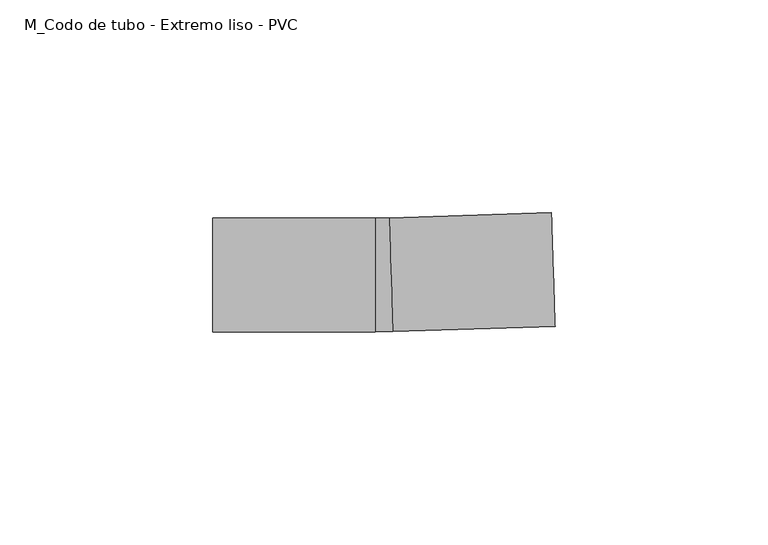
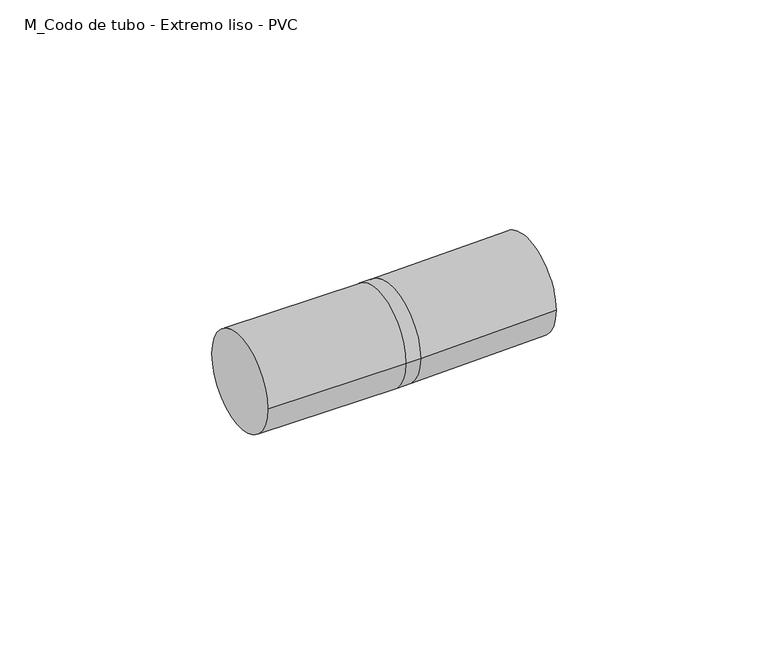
"""IFC4 building model written with IfcOpenShell, lengths in millimetres: cable carrier fitting geometry, M_Codo de tubo - Extremo liso - PVC : CODO ILUMINACION."""

import ifcopenshell
import ifcopenshell.guid

model = None  # the IFC model being written
_history = None  # IfcOwnerHistory: only IFC2X3 demands one
_inside = {}  # id of a spatial element -> (the spatial element, [elements in it])
_under = {}  # id of a project, library or spatial element -> (it, [spatial elements below it])
_declared = {}  # id of a project -> (the project, [libraries it declares])
_typed = {}  # id of a type object -> (the type object, [elements of that type])
_made_of = {}  # id of a material, layer set ... -> (it, [elements and type objects made of it])


def new_model(schema):
    """Start an empty IFC model of exactly this schema.

    Asked for "IFC4X3", IfcOpenShell would pick the latest addendum, in which some entities
    have other attributes; the version numbers below select the first issue.
    IFC2X3 requires an IfcOwnerHistory on every rooted entity: one is made here for all.
    """
    global model, _history
    if schema == "IFC4X3":
        model = ifcopenshell.file(schema_version=(4, 3, 0, 0))
    else:
        model = ifcopenshell.file(schema=schema)
    _inside.clear()
    _under.clear()
    _declared.clear()
    _typed.clear()
    _made_of.clear()
    _history = None
    if model.schema == "IFC2X3":
        org = make("IfcOrganization", Name="unknown")
        user = make(
            "IfcPersonAndOrganization",
            ThePerson=make("IfcPerson", FamilyName="unknown"),
            TheOrganization=org,
        )
        app = make(
            "IfcApplication",
            ApplicationDeveloper=org,
            Version="unknown",
            ApplicationFullName="unknown",
            ApplicationIdentifier="unknown",
        )
        _history = make(
            "IfcOwnerHistory",
            OwningUser=user,
            OwningApplication=app,
            ChangeAction="ADDED",
            CreationDate=0,
        )
    return model


def make(cls, **values):
    """One entity of the class cls with the attributes given. An attribute that is None is left unset."""
    return model.create_entity(
        cls, **{name: value for name, value in values.items() if value is not None}
    )


def rooted(cls, **values):
    """An entity with a GlobalId (a new one), such as an element, a storey or a relation."""
    return make(cls, GlobalId=ifcopenshell.guid.new(), OwnerHistory=_history, **values)


def si_unit(unit_type, name, prefix=None):
    """IfcSIUnit, for example si_unit("LENGTHUNIT", "METRE", prefix="MILLI")."""
    return make("IfcSIUnit", UnitType=unit_type, Prefix=prefix, Name=name)


def assignment(units):
    """IfcUnitAssignment: the units of a project."""
    return None if units is None else make("IfcUnitAssignment", Units=units)


def point(xyz):
    """IfcCartesianPoint."""
    return None if xyz is None else make("IfcCartesianPoint", Coordinates=xyz)


def direction(xyz):
    """IfcDirection."""
    return None if xyz is None else make("IfcDirection", DirectionRatios=xyz)


def frame(location, z_axis=None, x_axis=None):
    """IfcAxis2Placement3D, a coordinate frame: its origin and axes. An axis left out is left unset."""
    return make(
        "IfcAxis2Placement3D",
        Location=point(location),
        Axis=direction(z_axis),
        RefDirection=direction(x_axis),
    )


def origin():
    """The frame at (0, 0, 0) with its axes left unset."""
    return frame((0.0, 0.0, 0.0))


def place(relative_to, where):
    """IfcLocalPlacement: puts the frame where relative to a parent placement (None: the world)."""
    return make(
        "IfcLocalPlacement", PlacementRelTo=relative_to, RelativePlacement=where
    )


def context(
    kind, dimensions, precision=None, world=None, true_north=None, identifier=None
):
    """IfcGeometricRepresentationContext, for example the 3D "Model" context."""
    return make(
        "IfcGeometricRepresentationContext",
        ContextIdentifier=identifier,
        ContextType=kind,
        CoordinateSpaceDimension=dimensions,
        Precision=precision,
        WorldCoordinateSystem=world,
        TrueNorth=true_north,
    )


def project(units=None, contexts=None):
    """IfcProject with its units and contexts."""
    return rooted(
        "IfcProject",
        Name="project",
        RepresentationContexts=contexts,
        UnitsInContext=assignment(units),
    )


def spatial(cls, under=None, at=None, **own):
    """A site, building, storey or space (cls), placed at a placement, below another one or the project."""
    s = rooted(cls, ObjectPlacement=at, **own)
    if under is not None:
        _under.setdefault(under.id(), (under, []))[1].append(s)
    return s


def circle_curve(where, radius):
    """IfcCircle in the frame where."""
    return make("IfcCircle", Position=where, Radius=radius)


def ellipse_curve(where, semi_axis1, semi_axis2):
    """IfcEllipse in the frame where."""
    return make(
        "IfcEllipse", Position=where, SemiAxis1=semi_axis1, SemiAxis2=semi_axis2
    )


def trimmed(basis, trim1, trim2, sense, master):
    """IfcTrimmedCurve: the piece of a basis curve between two trims."""
    return make(
        "IfcTrimmedCurve",
        BasisCurve=basis,
        Trim1=trim1,
        Trim2=trim2,
        SenseAgreement=sense,
        MasterRepresentation=master,
    )


def shape(context_of_items, identifier, shape_type, items):
    """IfcShapeRepresentation: the items that make up one representation, for example the "Body"."""
    return make(
        "IfcShapeRepresentation",
        ContextOfItems=context_of_items,
        RepresentationIdentifier=identifier,
        RepresentationType=shape_type,
        Items=items,
    )


def source(mapping_origin, context_of_items, identifier, shape_type, items):
    """IfcRepresentationMap: a shape defined once, which mapped items show again and again."""
    return make(
        "IfcRepresentationMap",
        MappingOrigin=mapping_origin,
        MappedRepresentation=shape(context_of_items, identifier, shape_type, items),
    )


def transform(
    local_origin,
    x_axis=None,
    y_axis=None,
    z_axis=None,
    scale=None,
    scale2=None,
    scale3=None,
    uniform=True,
):
    """IfcCartesianTransformationOperator3D, or its non-uniform kind. x_axis, y_axis, z_axis: its Axis1, 2, 3."""
    if uniform:
        return make(
            "IfcCartesianTransformationOperator3D",
            Axis1=direction(x_axis),
            Axis2=direction(y_axis),
            LocalOrigin=point(local_origin),
            Scale=scale,
            Axis3=direction(z_axis),
        )
    return make(
        "IfcCartesianTransformationOperator3DnonUniform",
        Axis1=direction(x_axis),
        Axis2=direction(y_axis),
        LocalOrigin=point(local_origin),
        Scale=scale,
        Axis3=direction(z_axis),
        Scale2=scale2,
        Scale3=scale3,
    )


def mapped(mapping_source, mapping_target):
    """IfcMappedItem: shows the shape of a source again, moved by a transform."""
    return make(
        "IfcMappedItem", MappingSource=mapping_source, MappingTarget=mapping_target
    )


def made_of(thing, what):
    """Note that an element or type object is made of a material, layer set ...; save() writes the relation."""
    if what is not None:
        _made_of.setdefault(what.id(), (what, []))[1].append(thing)
    return thing


def element(
    cls,
    number,
    at=None,
    inside=None,
    cuts=None,
    type_object=None,
    material=None,
    context=None,
    identifier="Body",
    shape_type=None,
    held_by="IfcProductDefinitionShape",
    body=None,
    shapes=None,
    **own,
):
    """One element of the class cls, such as IfcWall. Its Tag is "e" and its number.

    at: its placement. inside: the storey or other place that contains it. cuts: it is an
    opening in that element (IfcRelVoidsElement). A single representation is given by context,
    identifier, shape_type and body (its items); several are given by shapes. held_by: the class
    of the entity that holds the representations. save() writes the other relations.
    """
    e = rooted(cls, Tag="e%d" % number, ObjectPlacement=at, **own)
    if body is not None:
        shapes = [shape(context, identifier, shape_type, body)]
    if shapes is not None:
        e.Representation = make(held_by, Representations=shapes)
    if inside is not None:
        _inside.setdefault(inside.id(), (inside, []))[1].append(e)
    if cuts is not None:
        rooted(
            "IfcRelVoidsElement", RelatingBuildingElement=cuts, RelatedOpeningElement=e
        )
    if type_object is not None:
        _typed.setdefault(type_object.id(), (type_object, []))[1].append(e)
    return made_of(e, material)


def aggregate(whole, parts):
    """IfcRelAggregates: a whole, such as a stair, and the parts it consists of."""
    return rooted("IfcRelAggregates", RelatingObject=whole, RelatedObjects=parts)


def save(model, path):
    """Write the relations noted so far, then the file.

    IfcRelAggregates (storeys below a building ...), IfcRelContainedInSpatialStructure (elements
    in a storey), IfcRelDefinesByType, IfcRelAssociatesMaterial and IfcRelDeclares: one each for
    every whole, place, type object, material and project.
    """
    for whole, parts in _under.values():
        aggregate(whole, parts)
    for where, things in _inside.values():
        rooted(
            "IfcRelContainedInSpatialStructure",
            RelatedElements=things,
            RelatingStructure=where,
        )
    for kind, things in _typed.values():
        rooted("IfcRelDefinesByType", RelatedObjects=things, RelatingType=kind)
    for what, things in _made_of.values():
        rooted("IfcRelAssociatesMaterial", RelatedObjects=things, RelatingMaterial=what)
    for by, libraries in _declared.values():
        rooted("IfcRelDeclares", RelatingContext=by, RelatedDefinitions=libraries)
    model.write(path)


def plane_surface(at):
    """IfcPlane: the flat surface through the origin of the frame at, square to its z axis."""
    return make("IfcPlane", Position=at)


def cylinder_surface(at, radius):
    """IfcCylindricalSurface: all points at the distance radius from the z axis of the frame at."""
    return make("IfcCylindricalSurface", Position=at, Radius=radius)


def revolved_surface(curve, axis_point, axis_direction):
    """IfcSurfaceOfRevolution: the curve turned about the line through axis_point along axis_direction."""
    return make(
        "IfcSurfaceOfRevolution",
        SweptCurve=make("IfcArbitraryOpenProfileDef", ProfileType="CURVE", Curve=curve),
        AxisPosition=make("IfcAxis1Placement", Location=point(axis_point), Axis=direction(axis_direction)),
    )


def advanced_brep(points, edges, surfaces, faces):
    """IfcAdvancedBrep: a solid bounded by faces that lie on surfaces and meet in shared edges.

    An edge is (start, end): straight between two places in points (the first is 0);
    or (start, end, curve); or (start, end, curve, False) where it runs against its curve.
    A face is (place in surfaces, loops), or (place, loops, False) where it looks against
    its surface's normal. A loop lists edges by number (the first is 1), with a minus sign
    where the edge is run from its end to its start. The first loop is the outer one.
    """
    corners = [point(p) for p in points]
    vertices = [make("IfcVertexPoint", VertexGeometry=c) for c in corners]
    made = []
    for start, end, *more in edges:
        made.append(
            make(
                "IfcEdgeCurve",
                EdgeStart=vertices[start],
                EdgeEnd=vertices[end],
                EdgeGeometry=more[0] if more else make("IfcPolyline", Points=[corners[start], corners[end]]),
                SameSense=more[1] if len(more) > 1 else True,
            )
        )
    hull = []
    for where, loops, *sense in faces:
        bounds = []
        for j, loop in enumerate(loops):
            ring = [make("IfcOrientedEdge", EdgeElement=made[abs(k) - 1], Orientation=k > 0) for k in loop]
            bounds.append(
                make(
                    "IfcFaceOuterBound" if j == 0 else "IfcFaceBound",
                    Bound=make("IfcEdgeLoop", EdgeList=ring),
                    Orientation=True,
                )
            )
        hull.append(make("IfcAdvancedFace", Bounds=bounds, FaceSurface=surfaces[where], SameSense=sense[0] if sense else True))
    return make("IfcAdvancedBrep", Outer=make("IfcClosedShell", CfsFaces=hull))


def m_codo_de_tubo_extremo_liso_pvc_1dd05dc2(model_context):
    return source(origin(), model_context, "Body", "AdvancedBrep", [
        advanced_brep(
        [(-39.947322, -13.335, 0.0), (-39.947322, 13.335, 0.0), (-1.847322, -13.335, 0.0), (-1.847322, 13.335, 0.0), (1.4154279, 13.3877327, 0.0), (2.2772864, -13.2683379, 0.0), (40.3573872, -12.0371115, 0.0), (39.4955288, 14.6189591, 0.0)],
        [
            (0, 1, circle_curve(frame((-39.947322, 0.0, 0.0), z_axis=(-1.0, 0.0, 0.0), x_axis=(0.0, 1.0, 0.0)), 13.335)),
            (1, 0, circle_curve(frame((-39.947322, 0.0, 0.0), z_axis=(-1.0, 0.0, 0.0), x_axis=(0.0, 1.0, 0.0)), 13.335)),
            (0, 2),
            (2, 3, circle_curve(frame((-1.847322, 0.0, 0.0), z_axis=(-1.0, 0.0, 0.0), x_axis=(0.0, 1.0, 0.0)), 13.335)),
            (3, 1),
            (3, 2, circle_curve(frame((-1.847322, 0.0, 0.0), z_axis=(-1.0, 0.0, 0.0), x_axis=(0.0, 1.0, 0.0)), 13.335)),
            (4, 3, circle_curve(frame((-1.847322, 114.3, 0.0), z_axis=(0.0, 0.0, -1.0), x_axis=(0.0, -1.0, 0.0)), 100.965)),
            (2, 5, circle_curve(frame((-1.847322, 114.3, 0.0), z_axis=(0.0, 0.0, 1.0), x_axis=(0.0, -1.0, 0.0)), 127.635)),
            (5, 4, circle_curve(frame((1.8463571, 0.0596974, 0.0), z_axis=(-0.9994777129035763, -0.03231565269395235, 0.0), x_axis=(-0.03231565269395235, 0.9994777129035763, 0.0)), 13.335)),
            (4, 5, circle_curve(frame((1.8463571, 0.0596974, 0.0), z_axis=(-0.9994777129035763, -0.03231565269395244, 0.0), x_axis=(-0.03231565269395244, 0.9994777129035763, 0.0)), 13.335)),
            (6, 7, circle_curve(frame((39.926458, 1.2909238, 0.0), z_axis=(0.9994777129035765, 0.03231565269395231, 0.0), x_axis=(-0.03231565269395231, 0.9994777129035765, 0.0)), 13.335)),
            (7, 6, circle_curve(frame((39.926458, 1.2909238, 0.0), z_axis=(0.9994777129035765, 0.03231565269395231, 0.0), x_axis=(-0.03231565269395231, 0.9994777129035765, 0.0)), 13.335)),
            (5, 6),
            (7, 4),
        ],
        [
            plane_surface(frame((-39.947322, 0.0, 0.0), z_axis=(-1.0, 0.0, 0.0), x_axis=(0.0, 0.0, 1.0))),
            cylinder_surface(frame((-39.947322, 0.0, 0.0), z_axis=(-1.0, 0.0, 0.0), x_axis=(0.0, 1.0, 0.0)), 13.335),
            revolved_surface(trimmed(ellipse_curve(frame((-1.847322, 0.0, 0.0), z_axis=(-1.0, 0.0, 0.0), x_axis=(0.0, 1.0, 0.0)), 13.335, 13.335), [point((-1.847322, -13.335, 0.0))], [point((-1.847322, 13.335, 0.0))], True, "CARTESIAN"), (-1.847322, 114.3, 0.0), (0.0, 0.0, 1.0)),
            revolved_surface(trimmed(ellipse_curve(frame((-1.847322, 0.0, 0.0), z_axis=(-1.0, 0.0, 0.0), x_axis=(0.0, 1.0, 0.0)), 13.335, 13.335), [point((-1.847322, 13.335, 0.0))], [point((-1.847322, -13.335, 0.0))], True, "CARTESIAN"), (-1.847322, 114.3, 0.0), (0.0, 0.0, 1.0)),
            plane_surface(frame((39.926458, 1.2909238, 0.0), z_axis=(0.9994777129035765, 0.032315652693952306, 0.0), x_axis=(0.0, 0.0, 1.0))),
            cylinder_surface(frame((1.8463571, 0.0596974, 0.0), z_axis=(-0.9994777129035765, -0.03231565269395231, 0.0), x_axis=(-0.03231565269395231, 0.9994777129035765, 0.0)), 13.335),
        ],
        [
            (0, [[1, 2]]),
            (1, [[-1, 3, 4, 5]]),
            (1, [[-2, -5, 6, -3]]),
            (2, [[7, -4, 8, 9]]),
            (3, [[-8, -6, -7, 10]]),
            (4, [[11, 12]]),
            (5, [[-9, 13, -12, 14]]),
            (5, [[-10, -14, -11, -13]]),
        ],
    ),
    ])


if __name__ == "__main__":
    model = new_model("IFC4")
    model_context = context("Model", 3, world=origin())
    ifc_project = project(units=[si_unit("LENGTHUNIT", "METRE", prefix="MILLI")], contexts=[model_context])
    site = spatial("IfcSite", under=ifc_project)
    building = spatial("IfcBuilding", under=site)
    placement = place(None, origin())
    m_codo_de_tubo_extremo_liso_pvc_shape = m_codo_de_tubo_extremo_liso_pvc_1dd05dc2(model_context)
    element("IfcCableCarrierFitting", 1, ObjectType="M_Codo de tubo - Extremo liso - PVC : CODO ILUMINACION", at=placement, inside=building, context=model_context, shape_type="MappedRepresentation", body=[
        mapped(m_codo_de_tubo_extremo_liso_pvc_shape, transform((0.0, 0.0, 0.0), x_axis=(1.0, 0.0, 0.0), y_axis=(0.0, 1.0, 0.0), z_axis=(0.0, 0.0, 1.0))),
    ])
    save(model, "model.ifc")
